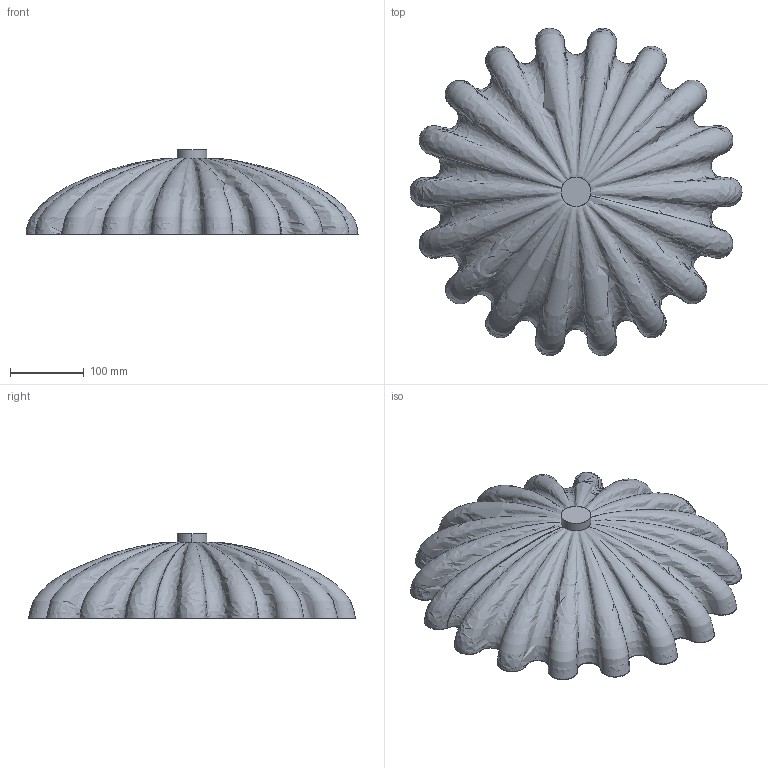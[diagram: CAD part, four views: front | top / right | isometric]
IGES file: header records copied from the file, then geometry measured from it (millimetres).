
Start section: SolidWorks IGES file using analytic representation for surfaces
Global section: file name: F:\燠隴矨\3D\2026-6\Blown Glass Ceiling Light-D45cm.IGS,15; native system: HSolidWorks 2022; preprocessor: SolidWorks 2022; author: MyPC; date: 260628.135512; units: millimetre
Bounding box: 449.99 x 443.76 x 115 mm (x, y, z)
Surface area: 730023.8 mm2 (no closed solid volume)
Topology: 0 solids, 0 shells, 49 faces, 2985 edges, 2985 vertices
Faces by surface type: bspline 27, revolution 22
